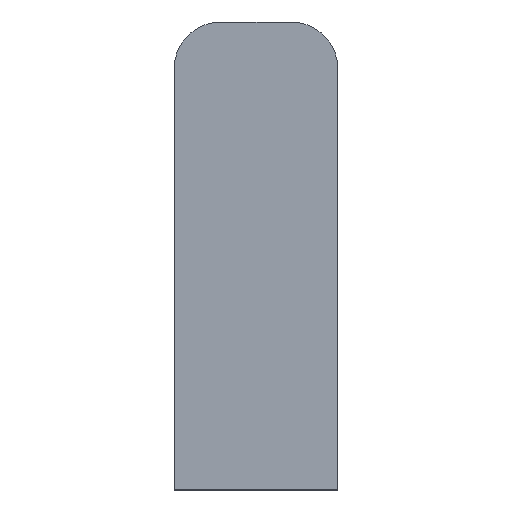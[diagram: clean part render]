
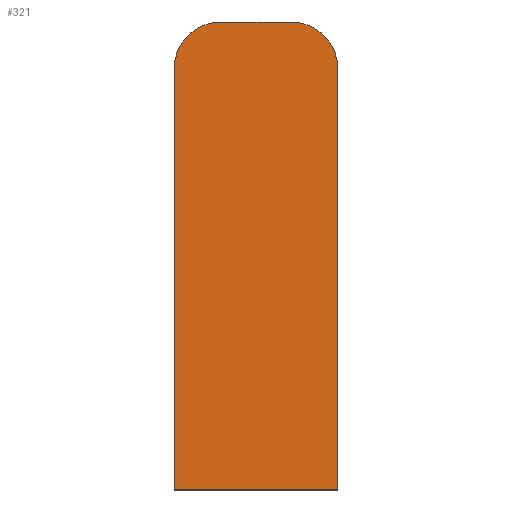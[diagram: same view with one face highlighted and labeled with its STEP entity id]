
A CAD part, front view. The second image highlights one B-rep face of the part: STEP entity #321.
In plain terms, the highlighted planar face has unit normal (0, -1, 0).
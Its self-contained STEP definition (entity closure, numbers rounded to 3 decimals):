
#5 = VERTEX_POINT ( 'NONE', #8 ) ;
#6 = CARTESIAN_POINT ( 'NONE',  ( 5.25, 0., 10.5 ) ) ;
#8 = CARTESIAN_POINT ( 'NONE',  ( -5.25, 0., -16.5 ) ) ;
#11 = VERTEX_POINT ( 'NONE', #6 ) ;
#32 = VERTEX_POINT ( 'NONE', #62 ) ;
#38 = VERTEX_POINT ( 'NONE', #66 ) ;
#40 = VERTEX_POINT ( 'NONE', #68 ) ;
#44 = VERTEX_POINT ( 'NONE', #72 ) ;
#62 = CARTESIAN_POINT ( 'NONE',  ( 5.25, 0., -16.5 ) ) ;
#66 = CARTESIAN_POINT ( 'NONE',  ( -2.25, 0., 13.5 ) ) ;
#68 = CARTESIAN_POINT ( 'NONE',  ( 2.25, 0., 13.5 ) ) ;
#72 = CARTESIAN_POINT ( 'NONE',  ( -5.25, 0., 10.5 ) ) ;
#100 = PLANE ( 'NONE',  #386 ) ;
#111 = CARTESIAN_POINT ( 'NONE',  ( 0., 0., -1.5 ) ) ;
#117 = DIRECTION ( 'NONE',  ( 0., 1., 0. ) ) ;
#118 = DIRECTION ( 'NONE',  ( -1., 0., 0. ) ) ;
#180 = CARTESIAN_POINT ( 'NONE',  ( 5.25, 0., -16.5 ) ) ;
#183 = DIRECTION ( 'NONE',  ( 1., 0., 0. ) ) ;
#188 = CARTESIAN_POINT ( 'NONE',  ( 2.25, 0., 10.5 ) ) ;
#190 = CARTESIAN_POINT ( 'NONE',  ( -2.25, 0., 10.5 ) ) ;
#192 = DIRECTION ( 'NONE',  ( 0., -1., 0. ) ) ;
#193 = DIRECTION ( 'NONE',  ( -1., 0., 0. ) ) ;
#199 = DIRECTION ( 'NONE',  ( 0., -1., 0. ) ) ;
#200 = DIRECTION ( 'NONE',  ( -1., 0., 0. ) ) ;
#214 = CARTESIAN_POINT ( 'NONE',  ( -5.25, 0., -16.5 ) ) ;
#218 = DIRECTION ( 'NONE',  ( 0., 0., -1. ) ) ;
#253 = CARTESIAN_POINT ( 'NONE',  ( 2.25, 0., 13.5 ) ) ;
#257 = DIRECTION ( 'NONE',  ( -1., 0., 0. ) ) ;
#274 = CARTESIAN_POINT ( 'NONE',  ( 5.25, 0., -16.5 ) ) ;
#278 = DIRECTION ( 'NONE',  ( 0., 0., 1. ) ) ;
#321 = ADVANCED_FACE ( 'NONE', ( #597 ), #100, .F. ) ;
#344 = EDGE_CURVE ( 'NONE', #5, #32, #643, .T. ) ;
#348 = EDGE_CURVE ( 'NONE', #38, #44, #574, .T. ) ;
#351 = EDGE_CURVE ( 'NONE', #11, #40, #655, .T. ) ;
#375 = EDGE_CURVE ( 'NONE', #44, #5, #573, .T. ) ;
#386 = AXIS2_PLACEMENT_3D ( 'NONE', #111, #117, #118 ) ;
#403 = EDGE_CURVE ( 'NONE', #40, #38, #686, .T. ) ;
#409 = AXIS2_PLACEMENT_3D ( 'NONE', #188, #199, #200 ) ;
#423 = EDGE_CURVE ( 'NONE', #32, #11, #696, .T. ) ;
#432 = AXIS2_PLACEMENT_3D ( 'NONE', #190, #192, #193 ) ;
#443 = ORIENTED_EDGE ( 'NONE', *, *, #403, .T. ) ;
#469 = ORIENTED_EDGE ( 'NONE', *, *, #348, .T. ) ;
#517 = ORIENTED_EDGE ( 'NONE', *, *, #375, .T. ) ;
#518 = ORIENTED_EDGE ( 'NONE', *, *, #344, .T. ) ;
#556 = ORIENTED_EDGE ( 'NONE', *, *, #351, .T. ) ;
#572 = ORIENTED_EDGE ( 'NONE', *, *, #423, .T. ) ;
#573 = LINE ( 'NONE', #214, #620 ) ;
#574 = CIRCLE ( 'NONE', #432, 3. ) ;
#597 = FACE_OUTER_BOUND ( 'NONE', #669, .T. ) ;
#620 = VECTOR ( 'NONE', #218, 1000. ) ;
#643 = LINE ( 'NONE', #180, #646 ) ;
#646 = VECTOR ( 'NONE', #183, 1000. ) ;
#655 = CIRCLE ( 'NONE', #409, 3. ) ;
#669 = EDGE_LOOP ( 'NONE', ( #572, #556, #443, #469, #517, #518 ) ) ;
#686 = LINE ( 'NONE', #253, #691 ) ;
#691 = VECTOR ( 'NONE', #257, 1000. ) ;
#696 = LINE ( 'NONE', #274, #704 ) ;
#704 = VECTOR ( 'NONE', #278, 1000. ) ;
